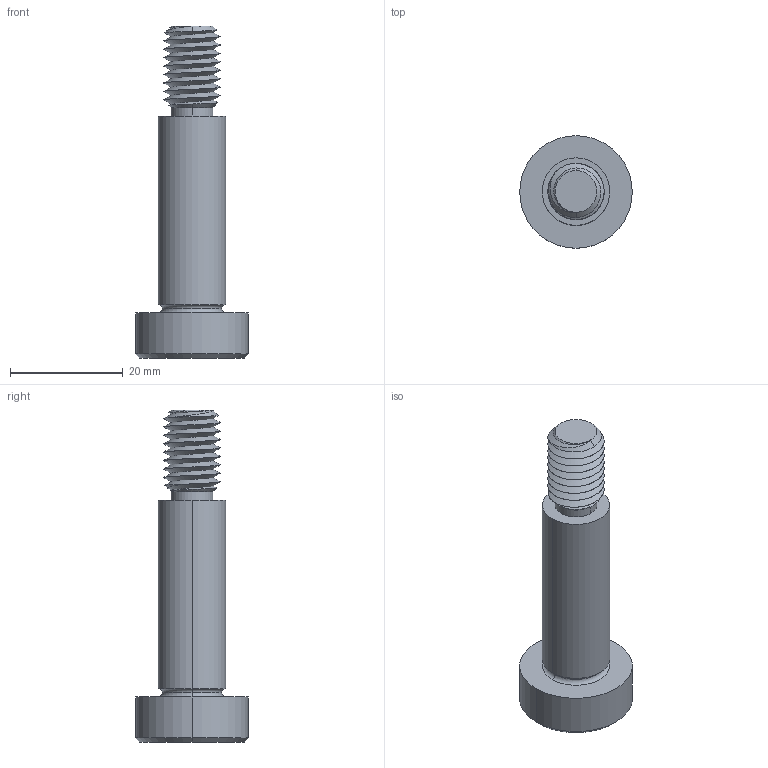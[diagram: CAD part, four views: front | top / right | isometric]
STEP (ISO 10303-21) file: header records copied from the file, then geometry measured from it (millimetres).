
FILE_DESCRIPTION (( 'STEP AP203' ), '1' );
FILE_NAME ('P0130.120-035-B2.step', '2021-11-09T22:05:53', ( '' ), ( '' ), 'SwSTEP 2.0', 'SolidWorks 2019', '' );
FILE_SCHEMA (( 'CONFIG_CONTROL_DESIGN' ));
Length unit declared in the file: millimetre
Products named in the file (1): P0130.120-035-B2
Bounding box: 20 x 20 x 59 mm (x, y, z)
Volume: 7135.5 mm3; surface area: 3376.7 mm2
Topology: 1 solids, 1 shells, 60 faces, 142 edges, 85 vertices
Faces by surface type: cylinder 23, plane 16, cone 15, torus 4, bspline 2
Entity records: 3534 total; most frequent: CARTESIAN_POINT 2187, ORIENTED_EDGE 280, DIRECTION 247, EDGE_CURVE 140, AXIS2_PLACEMENT_3D 99, VERTEX_POINT 85, EDGE_LOOP 63, ADVANCED_FACE 60
